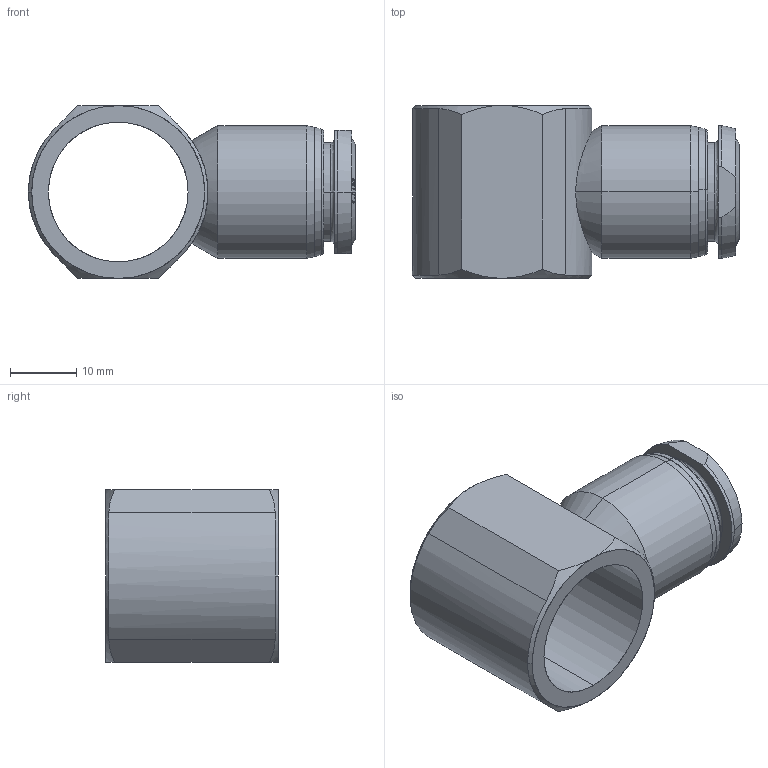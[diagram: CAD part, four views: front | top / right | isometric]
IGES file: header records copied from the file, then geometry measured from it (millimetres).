
Start section: SolidWorks IGES file using analytic representation for surfaces
Global section: file name: K:\Disegni Esecutivi\ALPHA TECHNOLOGIES\85000\Assiemi-85000\85500\IGES\8550000018A.IGS; native system: SolidWorks 2016; preprocessor: SolidWorks 2016; author: cad06; date: 200520.133419; units: millimetre
Bounding box: 49.2 x 26 x 26 mm (x, y, z)
Surface area: 7019.7 mm2 (no closed solid volume)
Topology: 0 solids, 0 shells, 99 faces, 1179 edges, 1179 vertices
Faces by surface type: bspline 61, revolution 38
